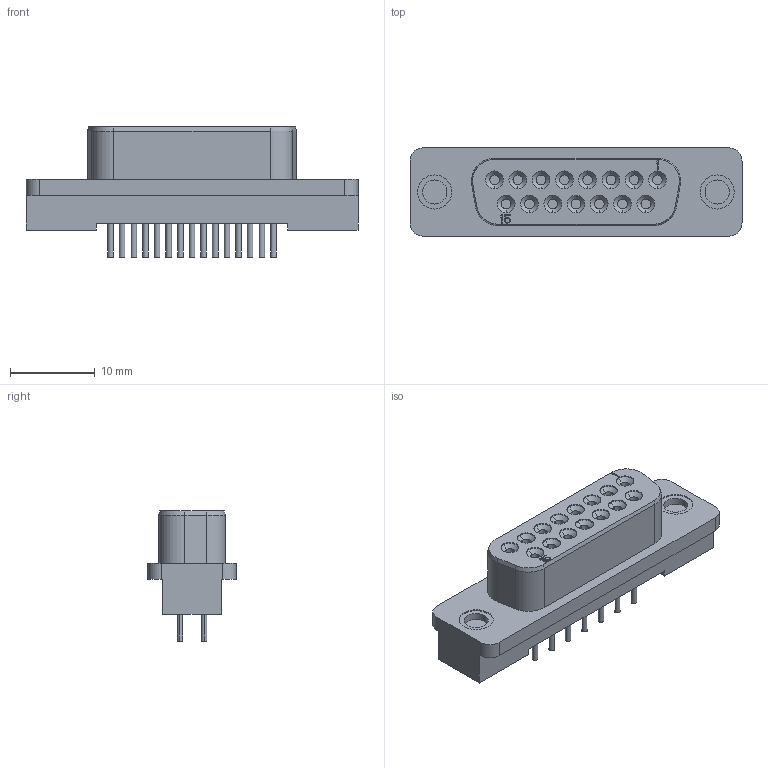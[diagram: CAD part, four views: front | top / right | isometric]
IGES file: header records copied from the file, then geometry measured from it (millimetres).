
Start section:  PTC IGES file: c-0745057-04-e-3d.igs
Global section: file name: c-0745057-04-e-3d.igs; native system: Pro/ENGINEER by Parametric Technology Corporation; preprocessor: 2005450; author: workeradm; organization: Unknown; date: 070904.210212; units: millimetre
Bounding box: 39.14 x 10.41 x 15.34 mm (x, y, z)
Surface area: 1933.3 mm2 (no closed solid volume)
Topology: 0 solids, 0 shells, 260 faces, 1172 edges, 1172 vertices
Faces by surface type: revolution 144, bspline 116
